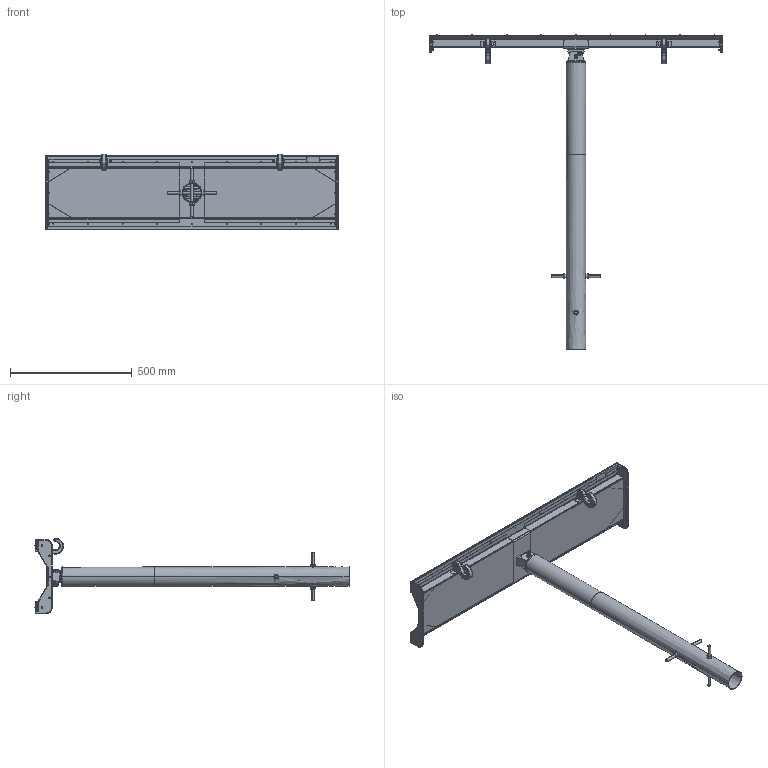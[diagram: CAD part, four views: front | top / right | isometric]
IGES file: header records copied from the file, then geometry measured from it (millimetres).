
Start section: SolidWorks IGES file using analytic representation for surfaces
Global section: file name: C:\Users\user25\Desktop\klient modele\570.203.020.012 - Split Channel CA.IGS; native system: SolidWorks 2018; preprocessor: SolidWorks 2018; author: user25; date: 210325.121137; units: millimetre
Bounding box: 1207.2 x 1292.01 x 310.61 mm (x, y, z)
Surface area: 1916516.9 mm2 (no closed solid volume)
Topology: 0 solids, 0 shells, 677 faces, 9371 edges, 9333 vertices
Faces by surface type: bspline 417, revolution 260
